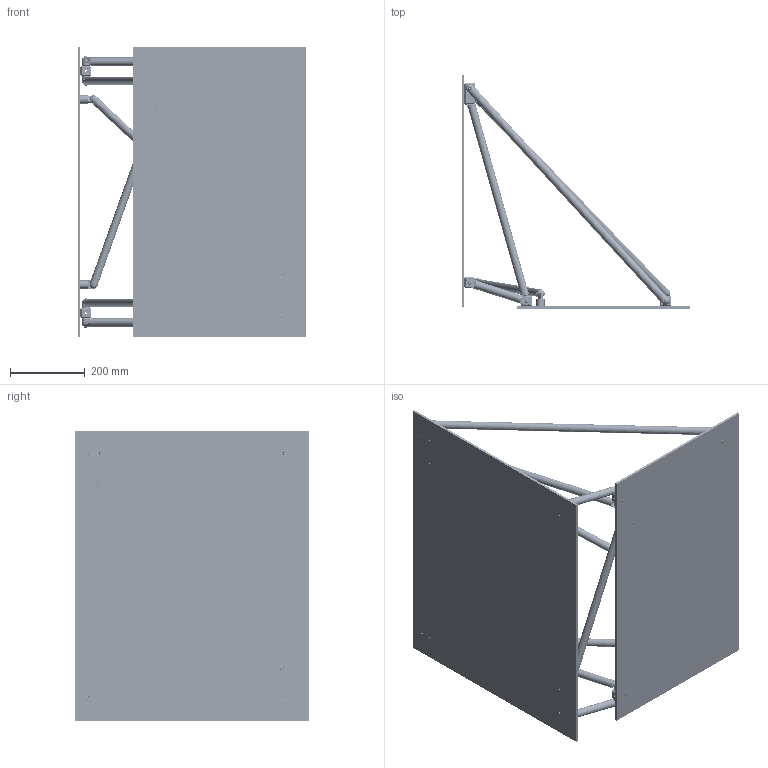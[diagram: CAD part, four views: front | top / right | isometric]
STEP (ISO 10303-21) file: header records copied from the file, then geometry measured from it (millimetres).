
FILE_DESCRIPTION (( 'STEP AP214' ), '1' );
FILE_NAME ('Offset Platform Assembly.STEP', '2013-11-21T16:22:18', ( 'ydmin' ), ( 'Microsoft' ), 'SwSTEP 2.0', 'SolidWorks 2013', '' );
FILE_SCHEMA (( 'AUTOMOTIVE_DESIGN' ));
Length unit declared in the file: inch
Products named in the file (20): DRP-002-0531-00; 91255A544_91255A544; 17.8564 Inch Tube; 91255A542_91255A542; 30 x 18 Plate; 28.6527 Inch Tube; 32.1915 Inch Tube; DRP-002-0555-00; DRP-002-0526-00; 20.3170 Inch Tube; 91255A540_91255A540; 4.4811 Inch Tube; DRP-002-0529-00; 30 x 12 Plate; DRP-002-0548-00; DRP-002-0554-00; 91253A540_91253A540; DRP-002-0524-00; DRP-002-0544-00; Offset Platform Assembly
Assembly tree (80 placements, depth 2):
  Offset Platform Assembly
    30 x 12 Plate
    30 x 18 Plate
    DRP-002-0544-00  x6
    DRP-002-0529-00  x8
    DRP-002-0524-00  x4
    DRP-002-0555-00  x4
    DRP-002-0554-00  x8
    DRP-002-0531-00  x4
    DRP-002-0526-00  x4
    91255A544_91255A544  x8
    91255A542_91255A542  x4
    91255A540_91255A540  x4
    4.4811 Inch Tube  x2
    17.8564 Inch Tube
    20.3170 Inch Tube  x2
    28.6527 Inch Tube  x2
    32.1915 Inch Tube
    91253A540_91253A540  x14
    DRP-002-0548-00  x2
Bounding box: 609.6 x 625.48 x 774.7 mm (x, y, z)
Volume: 6080314.4 mm3; surface area: 2436514.7 mm2
Topology: 88 solids, 88 shells, 5838 faces, 12324 edges, 6674 vertices
Faces by surface type: cone 2462, cylinder 2320, plane 852, torus 100, bspline 64, sphere 40
Entity records: 42153 total; most frequent: CARTESIAN_POINT 17107, DIRECTION 4457, ORIENTED_EDGE 4250, EDGE_CURVE 2125, AXIS2_PLACEMENT_3D 1741, VERTEX_POINT 1187, EDGE_LOOP 1064, ADVANCED_FACE 982
